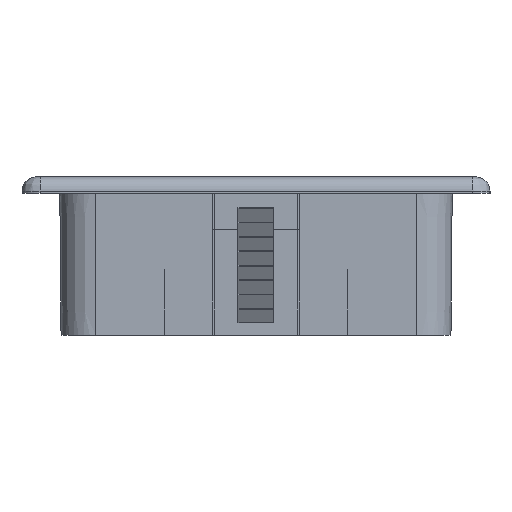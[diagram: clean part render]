
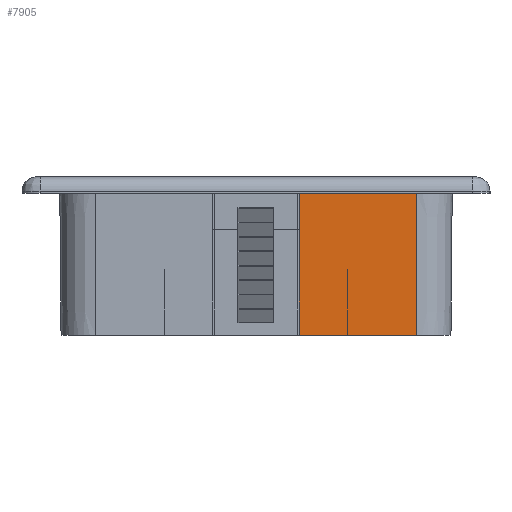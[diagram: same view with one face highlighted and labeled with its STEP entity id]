
A CAD part, left-side view. The second image highlights one B-rep face of the part: STEP entity #7905.
In plain terms, the highlighted planar face has unit normal (-1, 0, -0.009).
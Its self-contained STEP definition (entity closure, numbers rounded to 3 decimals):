
#500=DIRECTION('',(0.,1.,0.));
#501=VECTOR('',#500,16.25);
#502=CARTESIAN_POINT('',(-223.078,-22.25,-19.7));
#503=LINE('',#502,#501);
#2384=DIRECTION('',(0.009,0.,-1.));
#2385=VECTOR('',#2384,19.701);
#2386=CARTESIAN_POINT('',(-223.25,-6.,0.));
#2387=LINE('',#2386,#2385);
#2388=DIRECTION('',(0.,1.,0.));
#2389=VECTOR('',#2388,16.25);
#2390=CARTESIAN_POINT('',(-223.25,-22.25,0.));
#2391=LINE('',#2390,#2389);
#2392=DIRECTION('',(0.009,0.,-1.));
#2393=VECTOR('',#2392,19.701);
#2394=CARTESIAN_POINT('',(-223.25,-22.25,0.));
#2395=LINE('',#2394,#2393);
#3382=CARTESIAN_POINT('',(-223.078,-6.,-19.7));
#3383=VERTEX_POINT('',#3382);
#3392=CARTESIAN_POINT('',(-223.25,-6.,0.));
#3393=VERTEX_POINT('',#3392);
#4052=CARTESIAN_POINT('',(-223.078,-22.25,-19.7));
#4053=VERTEX_POINT('',#4052);
#4068=CARTESIAN_POINT('',(-223.25,-22.25,0.));
#4069=VERTEX_POINT('',#4068);
#7892=CARTESIAN_POINT('',(-223.25,-28.188,0.));
#7893=DIRECTION('',(-1.,0.,-0.009));
#7894=DIRECTION('',(0.,1.,0.));
#7895=AXIS2_PLACEMENT_3D('',#7892,#7893,#7894);
#7896=PLANE('',#7895);
#7898=ORIENTED_EDGE('',*,*,#7897,.F.);
#7899=ORIENTED_EDGE('',*,*,#7841,.F.);
#7901=ORIENTED_EDGE('',*,*,#7900,.T.);
#7902=ORIENTED_EDGE('',*,*,#4085,.T.);
#7903=EDGE_LOOP('',(#7898,#7899,#7901,#7902));
#7904=FACE_OUTER_BOUND('',#7903,.F.);
#4085=EDGE_CURVE('',#4053,#3383,#503,.T.);
#7841=EDGE_CURVE('',#4069,#3393,#2391,.T.);
#7897=EDGE_CURVE('',#3393,#3383,#2387,.T.);
#7900=EDGE_CURVE('',#4069,#4053,#2395,.T.);
#7905=ADVANCED_FACE('',(#7904),#7896,.T.);
